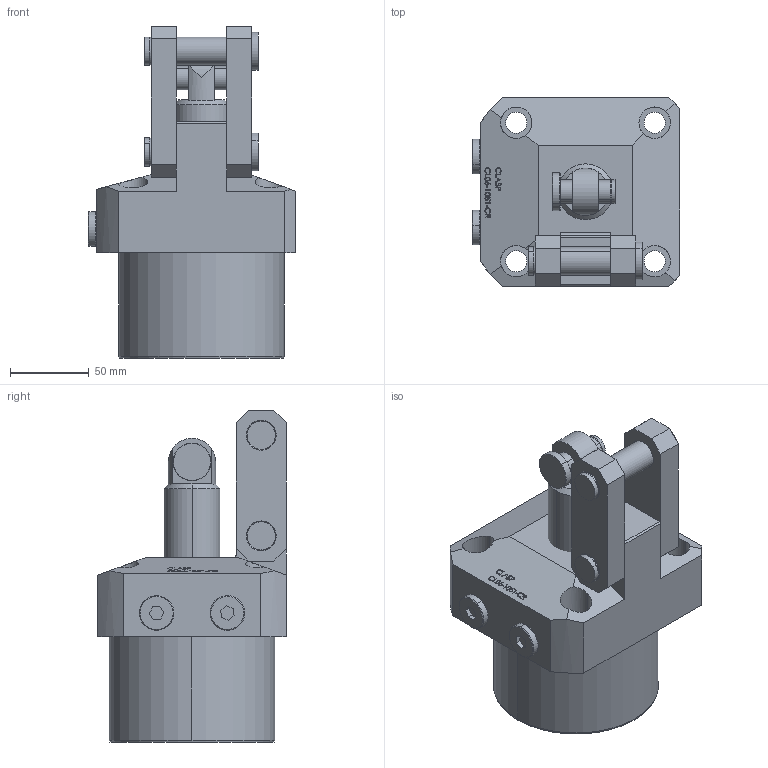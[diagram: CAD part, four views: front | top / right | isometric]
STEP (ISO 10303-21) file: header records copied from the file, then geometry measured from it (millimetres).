
FILE_DESCRIPTION (( 'STEP AP203' ), '1' );
FILE_NAME ('CL06-1051-cr.STEP', '2022-07-05T17:45:07', ( '' ), ( '' ), 'SwSTEP 2.0', 'SolidWorks 2017', '' );
FILE_SCHEMA (( 'CONFIG_CONTROL_DESIGN' ));
Length unit declared in the file: millimetre
Products named in the file (7): CL06-1051 Part5 cr; CL06-1051 Part6 cr; CL06-1051 Part7 cr; CL06-1051-cr; CL06-1051 Part1 cr; CL06-1051 Part3 cr; CL06-1051 Part2 cr
Assembly tree (9 placements, depth 2):
  CL06-1051-cr
    CL06-1051 Part1 cr
    CL06-1051 Part3 cr
    CL06-1051 Part2 cr  x2
    CL06-1051 Part5 cr  x2
    CL06-1051 Part6 cr  x2
    CL06-1051 Part7 cr
Bounding box: 132 x 120 x 211 mm (x, y, z)
Volume: 1440736 mm3; surface area: 138017.7 mm2
Topology: 9 solids, 9 shells, 402 faces, 989 edges, 644 vertices
Faces by surface type: plane 188, bspline 88, cylinder 84, cone 42
Entity records: 16544 total; most frequent: CARTESIAN_POINT 7833, ORIENTED_EDGE 1754, DIRECTION 1375, EDGE_CURVE 877, VERTEX_POINT 576, VECTOR 515, LINE 515, AXIS2_PLACEMENT_3D 430
